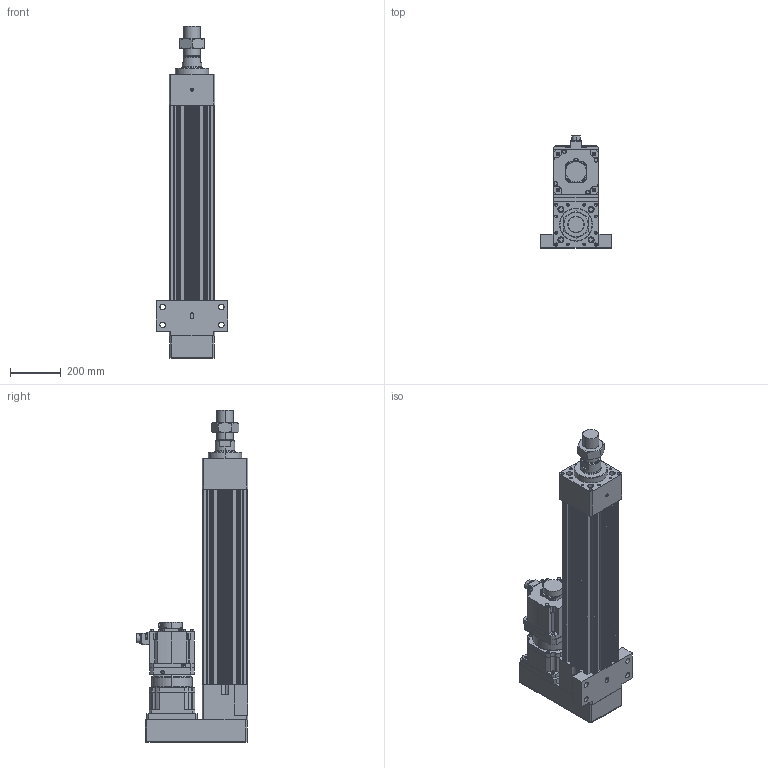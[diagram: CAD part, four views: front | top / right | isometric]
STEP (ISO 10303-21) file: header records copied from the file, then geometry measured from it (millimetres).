
FILE_DESCRIPTION (( 'STEP AP203' ), '1' );
FILE_NAME ('HES180HS-P450-W050G00-M-FFC.STEP', '2023-02-01T07:21:28', ( 'tms' ), ( '' ), 'SwSTEP 2.0', 'SolidWorks 2013', '' );
FILE_SCHEMA (( 'CONFIG_CONTROL_DESIGN' ));
Length unit declared in the file: millimetre
Products named in the file (9): P1301600001; AB180-003[HG-SR702B]; AB1801; M64X2.0P; P0403600401; HG-SR502; HES180-P450-G180-FFC; HES180 ROD M ST450; HES180HS-P450-W050G00-M-FFC
Assembly tree (8 placements, depth 3):
  HES180HS-P450-W050G00-M-FFC
    HES180-P450-G180-FFC
    HES180 ROD M ST450
    M64X2.0P
    AB180-003[HG-SR702B]
      AB1801
      P1301600001
      P0403600401
    HG-SR502
Bounding box: 280 x 438.85 x 1302 mm (x, y, z)
Volume: 29148045.6 mm3; surface area: 2536006.8 mm2
Topology: 4 solids, 19 shells, 1474 faces, 3821 edges, 2463 vertices
Faces by surface type: cylinder 686, plane 553, cone 168, bspline 63, torus 4
Entity records: 53682 total; most frequent: CARTESIAN_POINT 16162, DIRECTION 7905, ORIENTED_EDGE 7498, EDGE_CURVE 3773, AXIS2_PLACEMENT_3D 2986, VERTEX_POINT 2463, VECTOR 1933, LINE 1933
